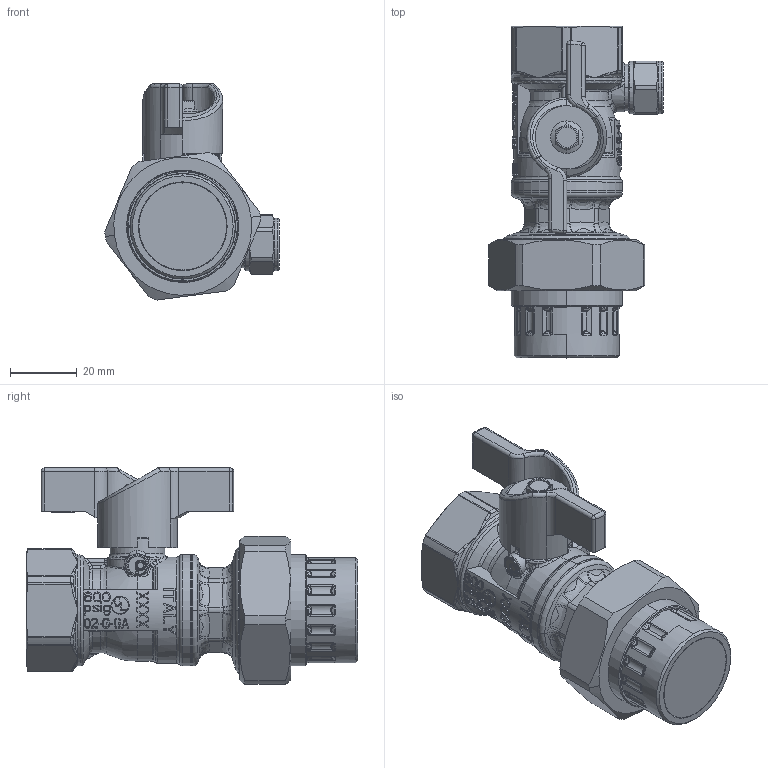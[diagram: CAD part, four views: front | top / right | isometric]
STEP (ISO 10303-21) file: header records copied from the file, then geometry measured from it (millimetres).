
FILE_DESCRIPTION(('Open CASCADE Model'),'2;1');
FILE_NAME('Open CASCADE Shape Model','2021-11-22T15:28:58',('Author'),( 'Open CASCADE'),'Open CASCADE STEP processor 7.3','Open CASCADE 7.3' ,'Unknown');
FILE_SCHEMA(('AUTOMOTIVE_DESIGN { 1 0 10303 214 1 1 1 1 }'));
Length unit declared in the file: millimetre
Products named in the file (30): Open CASCADE STEP translator 7.3 1; Open CASCADE STEP translator 7.3 1.1; Open CASCADE STEP translator 7.3 1.2; Open CASCADE STEP translator 7.3 1.3; Open CASCADE STEP translator 7.3 1.4; Open CASCADE STEP translator 7.3 1.5; Open CASCADE STEP translator 7.3 1.6; Open CASCADE STEP translator 7.3 1.7; Open CASCADE STEP translator 7.3 1.8; Open CASCADE STEP translator 7.3 1.9; Open CASCADE STEP translator 7.3 1.10; Open CASCADE STEP translator 7.3 1.11; Open CASCADE STEP translator 7.3 1.12; Open CASCADE STEP translator 7.3 1.13; Open CASCADE STEP translator 7.3 1.14; Open CASCADE STEP translator 7.3 1.15; Open CASCADE STEP translator 7.3 1.16; Open CASCADE STEP translator 7.3 1.17; Open CASCADE STEP translator 7.3 1.18; Open CASCADE STEP translator 7.3 1.19; Open CASCADE STEP translator 7.3 1.20; Open CASCADE STEP translator 7.3 1.21; Open CASCADE STEP translator 7.3 1.22; Open CASCADE STEP translator 7.3 1.23; Open CASCADE STEP translator 7.3 1.24; Open CASCADE STEP translator 7.3 1.25; Open CASCADE STEP translator 7.3 1.26; Open CASCADE STEP translator 7.3 1.27; Open CASCADE STEP translator 7.3 1.28; Open CASCADE STEP translator 7.3 1.29
Assembly tree (29 placements, depth 2):
  Open CASCADE STEP translator 7.3 1
    Open CASCADE STEP translator 7.3 1.1
    Open CASCADE STEP translator 7.3 1.2
    Open CASCADE STEP translator 7.3 1.3
    Open CASCADE STEP translator 7.3 1.4
    Open CASCADE STEP translator 7.3 1.5
    Open CASCADE STEP translator 7.3 1.6
    Open CASCADE STEP translator 7.3 1.7
    Open CASCADE STEP translator 7.3 1.8
    Open CASCADE STEP translator 7.3 1.9
    Open CASCADE STEP translator 7.3 1.10
    Open CASCADE STEP translator 7.3 1.11
    Open CASCADE STEP translator 7.3 1.12
    Open CASCADE STEP translator 7.3 1.13
    Open CASCADE STEP translator 7.3 1.14
    Open CASCADE STEP translator 7.3 1.15
    Open CASCADE STEP translator 7.3 1.16
    Open CASCADE STEP translator 7.3 1.17
    Open CASCADE STEP translator 7.3 1.18
    Open CASCADE STEP translator 7.3 1.19
    Open CASCADE STEP translator 7.3 1.20
    Open CASCADE STEP translator 7.3 1.21
    Open CASCADE STEP translator 7.3 1.22
    Open CASCADE STEP translator 7.3 1.23
    Open CASCADE STEP translator 7.3 1.24
    Open CASCADE STEP translator 7.3 1.25
    Open CASCADE STEP translator 7.3 1.26
    Open CASCADE STEP translator 7.3 1.27
    Open CASCADE STEP translator 7.3 1.28
    Open CASCADE STEP translator 7.3 1.29
Bounding box: 52.44 x 99.8 x 65 mm (x, y, z)
Volume: 69598.3 mm3; surface area: 54022.4 mm2
Topology: 17 solids, 29 shells, 2251 faces, 5830 edges, 3715 vertices
Faces by surface type: bspline 983, plane 574, cylinder 338, cone 172, torus 154, revolution 16, sphere 14
Entity records: 233802 total; most frequent: CARTESIAN_POINT 134847, DIRECTION 12408, ORIENTED_EDGE 11598, PCURVE 11598, DEFINITIONAL_REPRESENTATION 11598, B_SPLINE_CURVE_WITH_KNOTS 8934, LINE 6411, VECTOR 6411
